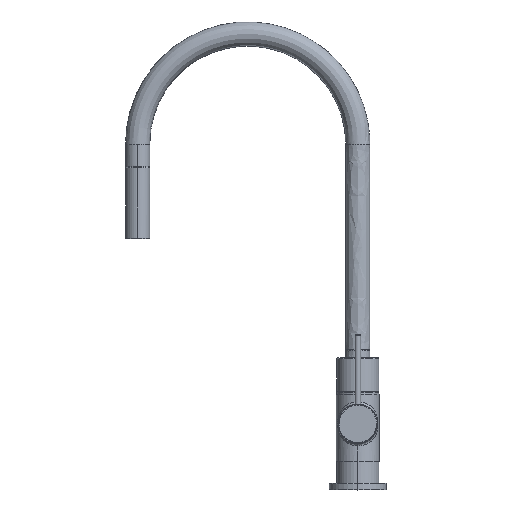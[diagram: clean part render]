
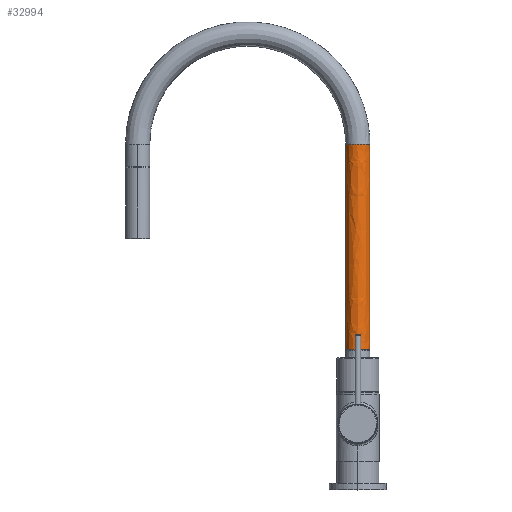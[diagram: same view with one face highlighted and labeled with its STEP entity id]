
A CAD part, top view. The second image highlights one B-rep face of the part: STEP entity #32994.
In plain terms, the highlighted free-form (B-spline) face has degree [3, 3] with [9, 4] control points.
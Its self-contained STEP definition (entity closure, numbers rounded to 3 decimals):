
#247 = FACE_OUTER_BOUND ( 'NONE', #30469, .T. ) ;
#1761 = CARTESIAN_POINT ( 'NONE',  ( 11.095, 197.74, 2.643 ) ) ;
#2686 = CARTESIAN_POINT ( 'NONE',  ( 10.977, 197.74, -0.689 ) ) ;
#6705 = CARTESIAN_POINT ( 'NONE',  ( 0., 132.913, 12.19 ) ) ;
#7143 = CARTESIAN_POINT ( 'NONE',  ( 0., 7., 12.19 ) ) ;
#7443 = CARTESIAN_POINT ( 'NONE',  ( 0., 197.74, 12.19 ) ) ;
#7865 = CARTESIAN_POINT ( 'NONE',  ( -11., 100.5, 0. ) ) ;
#8421 = DIRECTION ( 'NONE',  ( 0., 1., 0. ) ) ;
#9353 = ORIENTED_EDGE ( 'NONE', *, *, #43834, .F. ) ;
#10921 = B_SPLINE_CURVE_WITH_KNOTS ( 'NONE', 3,
 ( #27750, #31963, #27923, #7143, #32138, #36178, #27561 ),
 .UNSPECIFIED., .F., .F.,
 ( 4, 1, 1, 1, 4 ),
 ( 0., 0.009, 0.017, 0.026, 0.034 ),
 .UNSPECIFIED. ) ;
#11134 = CARTESIAN_POINT ( 'NONE',  ( 10.977, 132.913, -0.689 ) ) ;
#11321 = CARTESIAN_POINT ( 'NONE',  ( -11.095, 3.26, 2.643 ) ) ;
#11490 = CARTESIAN_POINT ( 'NONE',  ( 8.62, 132.913, 8.62 ) ) ;
#11677 = CARTESIAN_POINT ( 'NONE',  ( -11.095, 197.74, 2.643 ) ) ;
#12033 = CARTESIAN_POINT ( 'NONE',  ( 11., 7., 0. ) ) ;
#12410 = CARTESIAN_POINT ( 'NONE',  ( -11., 194., 0. ) ) ;
#15540 = CARTESIAN_POINT ( 'NONE',  ( -10.992, 197.74, -0.46 ) ) ;
#15903 = CARTESIAN_POINT ( 'NONE',  ( -8.62, 197.74, 8.62 ) ) ;
#16983 = B_SPLINE_SURFACE_WITH_KNOTS ( 'NONE', 3, 3, ( 
 ( #36293, #40341, #40530, #44935 ),
 ( #28409, #24184, #36480, #15540 ),
 ( #11321, #23633, #36654, #11677 ),
 ( #32442, #36119, #53537, #15903 ),
 ( #41077, #18473, #6705, #7443 ),
 ( #53002, #40722, #11490, #44578 ),
 ( #22690, #26932, #32076, #1761 ),
 ( #23816, #53353, #19396, #31148 ),
 ( #45116, #27858, #11134, #2686 ) ),
 .UNSPECIFIED., .F., .F., .F.,
 ( 4, 1, 1, 1, 1, 1, 4 ),
 ( 4, 4 ),
 ( -0.01, 0., 0.125, 0.25, 0.375, 0.5, 0.51 ),
 ( 0.017, 1.019 ),
 .UNSPECIFIED. ) ;
#18473 = CARTESIAN_POINT ( 'NONE',  ( 0., 68.087, 12.19 ) ) ;
#18620 = CARTESIAN_POINT ( 'NONE',  ( 11., 194., 0. ) ) ;
#19396 = CARTESIAN_POINT ( 'NONE',  ( 10.992, 132.913, -0.46 ) ) ;
#21553 = LINE ( 'NONE', #49372, #51140 ) ;
#22613 = ORIENTED_EDGE ( 'NONE', *, *, #51470, .F. ) ;
#22683 = CARTESIAN_POINT ( 'NONE',  ( 11., 194., 0. ) ) ;
#22690 = CARTESIAN_POINT ( 'NONE',  ( 11.095, 3.26, 2.643 ) ) ;
#23633 = CARTESIAN_POINT ( 'NONE',  ( -11.095, 68.087, 2.643 ) ) ;
#23816 = CARTESIAN_POINT ( 'NONE',  ( 10.992, 3.26, -0.46 ) ) ;
#24184 = CARTESIAN_POINT ( 'NONE',  ( -10.992, 68.087, -0.46 ) ) ;
#26707 = CARTESIAN_POINT ( 'NONE',  ( -11., 194., 0. ) ) ;
#26932 = CARTESIAN_POINT ( 'NONE',  ( 11.095, 68.087, 2.643 ) ) ;
#27561 = CARTESIAN_POINT ( 'NONE',  ( 11., 7., 0. ) ) ;
#27750 = CARTESIAN_POINT ( 'NONE',  ( -11., 7., 0. ) ) ;
#27858 = CARTESIAN_POINT ( 'NONE',  ( 10.977, 68.087, -0.689 ) ) ;
#27923 = CARTESIAN_POINT ( 'NONE',  ( -8.62, 7., 8.62 ) ) ;
#28409 = CARTESIAN_POINT ( 'NONE',  ( -10.992, 3.26, -0.46 ) ) ;
#30469 = EDGE_LOOP ( 'NONE', ( #22613, #33041, #9353, #39032 ) ) ;
#31124 = CARTESIAN_POINT ( 'NONE',  ( 0., 194., 12.19 ) ) ;
#31148 = CARTESIAN_POINT ( 'NONE',  ( 10.992, 197.74, -0.46 ) ) ;
#31963 = CARTESIAN_POINT ( 'NONE',  ( -11., 7., 2.873 ) ) ;
#32076 = CARTESIAN_POINT ( 'NONE',  ( 11.095, 132.913, 2.643 ) ) ;
#32138 = CARTESIAN_POINT ( 'NONE',  ( 8.62, 7., 8.62 ) ) ;
#32442 = CARTESIAN_POINT ( 'NONE',  ( -8.62, 3.26, 8.62 ) ) ;
#32994 = ADVANCED_FACE ( 'NONE', ( #247 ), #16983, .T. ) ;
#33041 = ORIENTED_EDGE ( 'NONE', *, *, #34025, .T. ) ;
#33668 = VERTEX_POINT ( 'NONE', #26707 ) ;
#34025 = EDGE_CURVE ( 'NONE', #36158, #34919, #10921, .T. ) ;
#34919 = VERTEX_POINT ( 'NONE', #12033 ) ;
#36119 = CARTESIAN_POINT ( 'NONE',  ( -8.62, 68.087, 8.62 ) ) ;
#36158 = VERTEX_POINT ( 'NONE', #51030 ) ;
#36178 = CARTESIAN_POINT ( 'NONE',  ( 11., 7., 2.873 ) ) ;
#36293 = CARTESIAN_POINT ( 'NONE',  ( -10.977, 3.26, -0.689 ) ) ;
#36480 = CARTESIAN_POINT ( 'NONE',  ( -10.992, 132.913, -0.46 ) ) ;
#36654 = CARTESIAN_POINT ( 'NONE',  ( -11.095, 132.913, 2.643 ) ) ;
#38083 = VERTEX_POINT ( 'NONE', #22683 ) ;
#38498 = VECTOR ( 'NONE', #8421, 1000. ) ;
#39032 = ORIENTED_EDGE ( 'NONE', *, *, #50767, .F. ) ;
#39927 = CARTESIAN_POINT ( 'NONE',  ( 8.619, 194., 8.62 ) ) ;
#40341 = CARTESIAN_POINT ( 'NONE',  ( -10.977, 68.087, -0.689 ) ) ;
#40530 = CARTESIAN_POINT ( 'NONE',  ( -10.977, 132.913, -0.689 ) ) ;
#40722 = CARTESIAN_POINT ( 'NONE',  ( 8.62, 68.087, 8.62 ) ) ;
#41077 = CARTESIAN_POINT ( 'NONE',  ( 0., 3.26, 12.19 ) ) ;
#43804 = B_SPLINE_CURVE_WITH_KNOTS ( 'NONE', 3,
 ( #12410, #51880, #52408, #31124, #39927, #48039, #18620 ),
 .UNSPECIFIED., .F., .F.,
 ( 4, 1, 1, 1, 4 ),
 ( 0., 0.25, 0.5, 0.75, 1. ),
 .UNSPECIFIED. ) ;
#43834 = EDGE_CURVE ( 'NONE', #38083, #34919, #21553, .T. ) ;
#44578 = CARTESIAN_POINT ( 'NONE',  ( 8.62, 197.74, 8.62 ) ) ;
#44935 = CARTESIAN_POINT ( 'NONE',  ( -10.977, 197.74, -0.689 ) ) ;
#45116 = CARTESIAN_POINT ( 'NONE',  ( 10.977, 3.26, -0.689 ) ) ;
#45861 = DIRECTION ( 'NONE',  ( 0., -1., 0. ) ) ;
#48039 = CARTESIAN_POINT ( 'NONE',  ( 11., 194., 2.873 ) ) ;
#49372 = CARTESIAN_POINT ( 'NONE',  ( 11., 100.5, 0. ) ) ;
#50767 = EDGE_CURVE ( 'NONE', #33668, #38083, #43804, .T. ) ;
#51004 = LINE ( 'NONE', #7865, #38498 ) ;
#51030 = CARTESIAN_POINT ( 'NONE',  ( -11., 7., 0. ) ) ;
#51140 = VECTOR ( 'NONE', #45861, 1000. ) ;
#51470 = EDGE_CURVE ( 'NONE', #36158, #33668, #51004, .T. ) ;
#51880 = CARTESIAN_POINT ( 'NONE',  ( -11., 194., 2.873 ) ) ;
#52408 = CARTESIAN_POINT ( 'NONE',  ( -8.62, 194., 8.62 ) ) ;
#53002 = CARTESIAN_POINT ( 'NONE',  ( 8.62, 3.26, 8.62 ) ) ;
#53353 = CARTESIAN_POINT ( 'NONE',  ( 10.992, 68.087, -0.46 ) ) ;
#53537 = CARTESIAN_POINT ( 'NONE',  ( -8.62, 132.913, 8.62 ) ) ;
